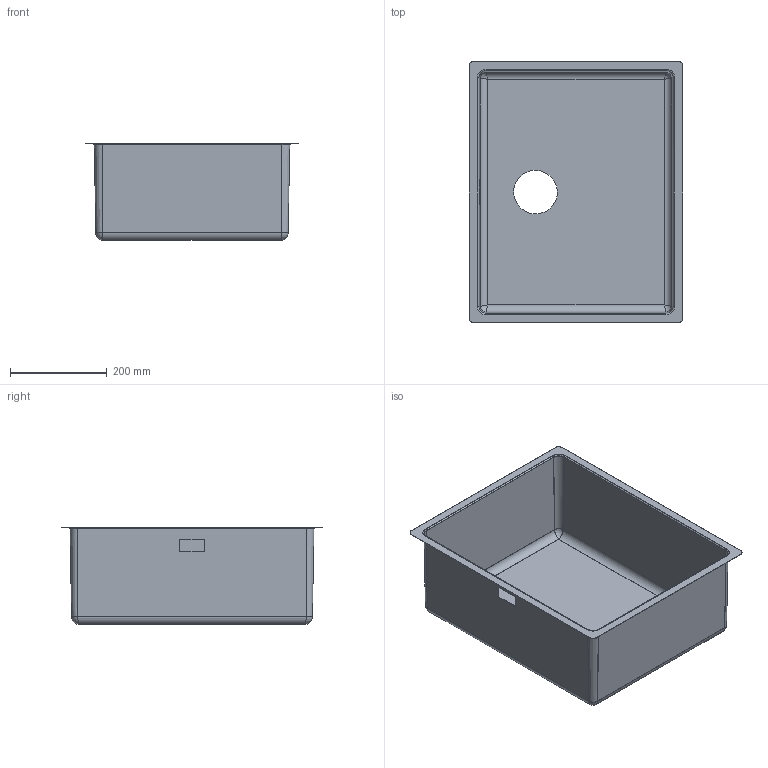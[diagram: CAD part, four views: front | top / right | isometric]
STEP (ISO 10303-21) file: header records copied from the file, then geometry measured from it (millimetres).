
FILE_DESCRIPTION(('CATIA V5 STEP Exchange'),'2;1');
FILE_NAME('M:\DISEGNI\LAVELLI\Mira\Assiemi\VSTR50DKX\VSTR50DKX.stp','2018-12-19T13:25:31+00:00',('none'),('none'),'CATIA Version 5-6 Release 2014','CATIA V5 STEP AP203','none');
FILE_SCHEMA(('CONFIG_CONTROL_DESIGN'));
Length unit declared in the file: millimetre
Products named in the file (1): 2427492
Bounding box: 440 x 540 x 200 mm (x, y, z)
Volume: 562973.1 mm3; surface area: 1128355.3 mm2
Topology: 1 solids, 1 shells, 68 faces, 160 edges, 88 vertices
Faces by surface type: cylinder 24, bspline 24, plane 20
Entity records: 4101 total; most frequent: CARTESIAN_POINT 2769, ORIENTED_EDGE 304, DIRECTION 174, EDGE_CURVE 152, VERTEX_POINT 88, EDGE_LOOP 74, VECTOR 72, LINE 72
